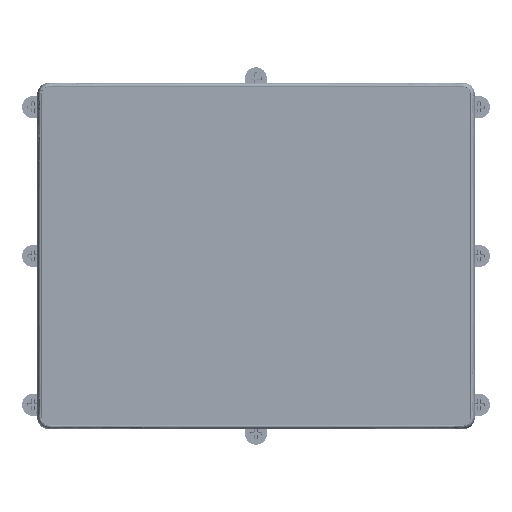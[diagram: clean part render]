
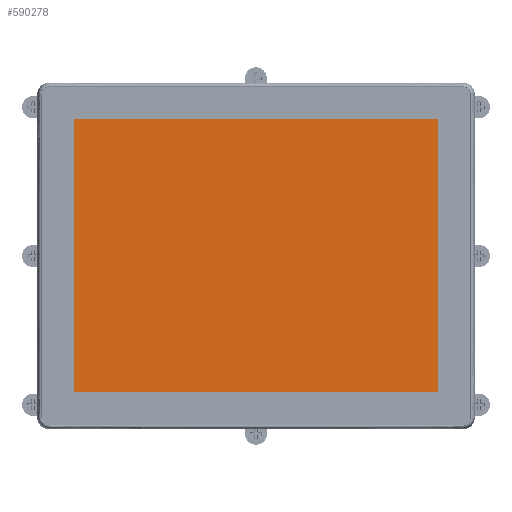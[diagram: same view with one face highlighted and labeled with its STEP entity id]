
A CAD part, top view. The second image highlights one B-rep face of the part: STEP entity #590278.
In plain terms, the highlighted planar face has unit normal (0, 0, 1).
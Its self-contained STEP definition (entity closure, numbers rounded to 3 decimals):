
#189178=DIRECTION('',(0.,-1.,0.));
#189179=VECTOR('',#189178,185.32);
#189180=CARTESIAN_POINT('',(-123.38,92.66,4.79));
#189181=LINE('',#189180,#189179);
#189198=DIRECTION('',(-1.,0.,0.));
#189199=VECTOR('',#189198,246.76);
#189200=CARTESIAN_POINT('',(123.38,92.66,4.79));
#189201=LINE('',#189200,#189199);
#189206=DIRECTION('',(0.,1.,0.));
#189207=VECTOR('',#189206,185.32);
#189208=CARTESIAN_POINT('',(123.38,-92.66,4.79));
#189209=LINE('',#189208,#189207);
#189218=DIRECTION('',(1.,0.,0.));
#189219=VECTOR('',#189218,246.76);
#189220=CARTESIAN_POINT('',(-123.38,-92.66,4.79));
#189221=LINE('',#189220,#189219);
#268157=CARTESIAN_POINT('',(-123.38,92.66,4.79));
#268159=VERTEX_POINT('',#268157);
#268162=CARTESIAN_POINT('',(-123.38,-92.66,4.79));
#268164=VERTEX_POINT('',#268162);
#268166=CARTESIAN_POINT('',(123.38,-92.66,4.79));
#268168=VERTEX_POINT('',#268166);
#268170=CARTESIAN_POINT('',(123.38,92.66,4.79));
#268172=VERTEX_POINT('',#268170);
#590267=CARTESIAN_POINT('',(0.,0.,4.79));
#590268=DIRECTION('',(0.,0.,1.));
#590269=DIRECTION('',(1.,0.,0.));
#590270=AXIS2_PLACEMENT_3D('',#590267,#590268,#590269);
#590271=PLANE('',#590270);
#590272=ORIENTED_EDGE('',*,*,#590190,.F.);
#590273=ORIENTED_EDGE('',*,*,#590214,.F.);
#590274=ORIENTED_EDGE('',*,*,#590233,.F.);
#590275=ORIENTED_EDGE('',*,*,#590253,.F.);
#590276=EDGE_LOOP('',(#590272,#590273,#590274,#590275));
#590277=FACE_OUTER_BOUND('',#590276,.F.);
#590278=ADVANCED_FACE('',(#590277),#590271,.T.);
#590190=EDGE_CURVE('',#268159,#268164,#189181,.T.);
#590214=EDGE_CURVE('',#268172,#268159,#189201,.T.);
#590233=EDGE_CURVE('',#268168,#268172,#189209,.T.);
#590253=EDGE_CURVE('',#268164,#268168,#189221,.T.);
